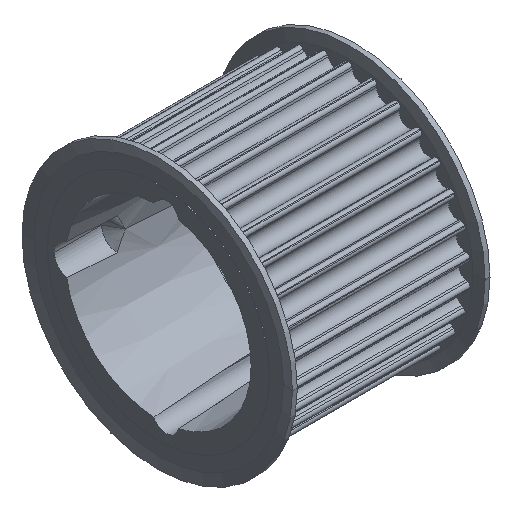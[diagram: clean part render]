
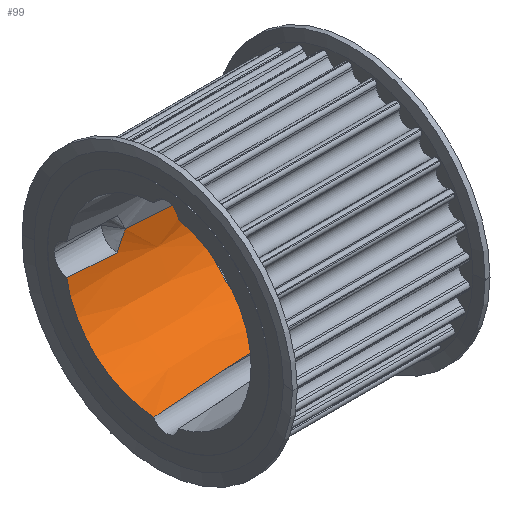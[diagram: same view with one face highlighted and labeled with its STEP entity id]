
A CAD part, isometric view. The second image highlights one B-rep face of the part: STEP entity #99.
In plain terms, the highlighted conical face has half-angle 4 degrees and reference radius 27.171 mm.
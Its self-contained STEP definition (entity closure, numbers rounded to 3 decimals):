
#99 = ADVANCED_FACE( '', ( #468 ), #469, .F. );
#468 = FACE_OUTER_BOUND( '', #1162, .T. );
#469 = CONICAL_SURFACE( '', #1163, 27.171, 0.07 );
#1162 = EDGE_LOOP( '', ( #1991, #1992, #1993, #1994, #1995, #1996, #1997 ) );
#1163 = AXIS2_PLACEMENT_3D( '', #1998, #1999, #2000 );
#1991 = ORIENTED_EDGE( '', *, *, #5385, .T. );
#1992 = ORIENTED_EDGE( '', *, *, #5374, .T. );
#1993 = ORIENTED_EDGE( '', *, *, #5371, .T. );
#1994 = ORIENTED_EDGE( '', *, *, #5411, .T. );
#1995 = ORIENTED_EDGE( '', *, *, #5382, .T. );
#1996 = ORIENTED_EDGE( '', *, *, #5377, .T. );
#1997 = ORIENTED_EDGE( '', *, *, #5406, .F. );
#1998 = CARTESIAN_POINT( '', ( 19., 0., 0. ) );
#1999 = DIRECTION( '', ( -1., 0., 0. ) );
#2000 = DIRECTION( '', ( 0., 1., 0. ) );
#5371 = EDGE_CURVE( '', #6656, #6654, #6657, .T. );
#5374 = EDGE_CURVE( '', #6659, #6656, #6661, .T. );
#5377 = EDGE_CURVE( '', #6662, #6665, #6667, .T. );
#5382 = EDGE_CURVE( '', #6675, #6662, #6676, .T. );
#5385 = EDGE_CURVE( '', #6680, #6659, #6681, .T. );
#5406 = EDGE_CURVE( '', #6680, #6665, #6715, .T. );
#5411 = EDGE_CURVE( '', #6654, #6675, #6721, .T. );
#6654 = VERTEX_POINT( '', #8699 );
#6656 = VERTEX_POINT( '', #8701 );
#6657 = B_SPLINE_CURVE_WITH_KNOTS( '', 3, ( #8702, #8703, #8704, #8705, #8706, #8707 ), .UNSPECIFIED., .F., .F., ( 4, 2, 4 ), ( 0.99, 7.755, 14.52 ), .UNSPECIFIED. );
#6659 = VERTEX_POINT( '', #8709 );
#6661 = B_SPLINE_CURVE_WITH_KNOTS( '', 3, ( #8712, #8713, #8714, #8715, #8716, #8717, #8718, #8719, #8720, #8721, #8722, #8723, #8724, #8725, #8726, #8727, #8728, #8729, #8730, #8731, #8732, #8733, #8734, #8735, #8736, #8737, #8738, #8739, #8740, #8741 ), .UNSPECIFIED., .F., .F., ( 4, 2, 2, 2, 2, 2, 2, 2, 2, 2, 2, 2, 2, 2, 4 ), ( 1.935, 3.423, 5.135, 5.99, 6.418, 6.846, 7.009, 7.171, 7.334, 7.496, 7.924, 8.352, 9.208, 10.92, 12.408 ), .UNSPECIFIED. );
#6662 = VERTEX_POINT( '', #8742 );
#6665 = VERTEX_POINT( '', #8746 );
#6667 = B_SPLINE_CURVE_WITH_KNOTS( '', 3, ( #8748, #8749, #8750, #8751, #8752, #8753, #8754, #8755, #8756, #8757 ), .UNSPECIFIED., .F., .F., ( 4, 2, 2, 2, 4 ), ( 0.995, 11.911, 23.823, 30.71, 36.609 ), .UNSPECIFIED. );
#6675 = VERTEX_POINT( '', #8766 );
#6676 = B_SPLINE_CURVE_WITH_KNOTS( '', 3, ( #8767, #8768, #8769, #8770, #8771, #8772, #8773, #8774, #8775, #8776 ), .UNSPECIFIED., .F., .F., ( 4, 2, 2, 2, 4 ), ( 0.995, 11.911, 23.823, 30.71, 36.609 ), .UNSPECIFIED. );
#6680 = VERTEX_POINT( '', #8789 );
#6681 = LINE( '', #8790, #8791 );
#6715 = CIRCLE( '', #8898, 25.843 );
#6721 = CIRCLE( '', #8913, 28.5 );
#8699 = CARTESIAN_POINT( '', ( 0., 28.098, -4.772 ) );
#8701 = CARTESIAN_POINT( '', ( 14.5, 27.046, -4.9 ) );
#8702 = CARTESIAN_POINT( '', ( 14.5, 27.046, -4.9 ) );
#8703 = CARTESIAN_POINT( '', ( 12.197, 27.21, -4.898 ) );
#8704 = CARTESIAN_POINT( '', ( 9.723, 27.388, -4.887 ) );
#8705 = CARTESIAN_POINT( '', ( 4.776, 27.746, -4.844 ) );
#8706 = CARTESIAN_POINT( '', ( 2.302, 27.928, -4.812 ) );
#8707 = CARTESIAN_POINT( '', ( 0., 28.098, -4.772 ) );
#8709 = CARTESIAN_POINT( '', ( 17.147, 27.301, 0. ) );
#8712 = CARTESIAN_POINT( '', ( 14.5, 27.046, 4.9 ) );
#8713 = CARTESIAN_POINT( '', ( 14.765, 27.11, 4.44 ) );
#8714 = CARTESIAN_POINT( '', ( 15.034, 27.164, 3.971 ) );
#8715 = CARTESIAN_POINT( '', ( 15.613, 27.253, 2.962 ) );
#8716 = CARTESIAN_POINT( '', ( 15.922, 27.285, 2.421 ) );
#8717 = CARTESIAN_POINT( '', ( 16.373, 27.308, 1.626 ) );
#8718 = CARTESIAN_POINT( '', ( 16.521, 27.312, 1.364 ) );
#8719 = CARTESIAN_POINT( '', ( 16.735, 27.313, 0.975 ) );
#8720 = CARTESIAN_POINT( '', ( 16.806, 27.312, 0.847 ) );
#8721 = CARTESIAN_POINT( '', ( 16.941, 27.309, 0.59 ) );
#8722 = CARTESIAN_POINT( '', ( 17.008, 27.307, 0.463 ) );
#8723 = CARTESIAN_POINT( '', ( 17.084, 27.304, 0.282 ) );
#8724 = CARTESIAN_POINT( '', ( 17.106, 27.303, 0.226 ) );
#8725 = CARTESIAN_POINT( '', ( 17.137, 27.301, 0.112 ) );
#8726 = CARTESIAN_POINT( '', ( 17.147, 27.301, 0.054 ) );
#8727 = CARTESIAN_POINT( '', ( 17.147, 27.301, -0.054 ) );
#8728 = CARTESIAN_POINT( '', ( 17.137, 27.301, -0.112 ) );
#8729 = CARTESIAN_POINT( '', ( 17.106, 27.303, -0.226 ) );
#8730 = CARTESIAN_POINT( '', ( 17.084, 27.304, -0.282 ) );
#8731 = CARTESIAN_POINT( '', ( 17.008, 27.307, -0.463 ) );
#8732 = CARTESIAN_POINT( '', ( 16.941, 27.309, -0.59 ) );
#8733 = CARTESIAN_POINT( '', ( 16.806, 27.312, -0.847 ) );
#8734 = CARTESIAN_POINT( '', ( 16.735, 27.313, -0.975 ) );
#8735 = CARTESIAN_POINT( '', ( 16.521, 27.312, -1.364 ) );
#8736 = CARTESIAN_POINT( '', ( 16.373, 27.308, -1.626 ) );
#8737 = CARTESIAN_POINT( '', ( 15.922, 27.285, -2.421 ) );
#8738 = CARTESIAN_POINT( '', ( 15.613, 27.253, -2.962 ) );
#8739 = CARTESIAN_POINT( '', ( 15.034, 27.164, -3.971 ) );
#8740 = CARTESIAN_POINT( '', ( 14.765, 27.11, -4.44 ) );
#8741 = CARTESIAN_POINT( '', ( 14.5, 27.046, -4.9 ) );
#8742 = CARTESIAN_POINT( '', ( 20.989, 1.598, -26.985 ) );
#8746 = CARTESIAN_POINT( '', ( 38., 1.417, -25.804 ) );
#8748 = CARTESIAN_POINT( '', ( 0., 1.308, -28.47 ) );
#8749 = CARTESIAN_POINT( '', ( 3.686, 1.415, -28.207 ) );
#8750 = CARTESIAN_POINT( '', ( 7.678, 1.496, -27.923 ) );
#8751 = CARTESIAN_POINT( '', ( 16.026, 1.595, -27.333 ) );
#8752 = CARTESIAN_POINT( '', ( 20.383, 1.608, -27.027 ) );
#8753 = CARTESIAN_POINT( '', ( 26.634, 1.582, -26.591 ) );
#8754 = CARTESIAN_POINT( '', ( 29.153, 1.561, -26.415 ) );
#8755 = CARTESIAN_POINT( '', ( 33.829, 1.499, -26.091 ) );
#8756 = CARTESIAN_POINT( '', ( 35.987, 1.461, -25.942 ) );
#8757 = CARTESIAN_POINT( '', ( 38., 1.417, -25.804 ) );
#8766 = CARTESIAN_POINT( '', ( 0., 1.308, -28.47 ) );
#8767 = CARTESIAN_POINT( '', ( 0., 1.308, -28.47 ) );
#8768 = CARTESIAN_POINT( '', ( 3.686, 1.415, -28.207 ) );
#8769 = CARTESIAN_POINT( '', ( 7.678, 1.496, -27.923 ) );
#8770 = CARTESIAN_POINT( '', ( 16.026, 1.595, -27.333 ) );
#8771 = CARTESIAN_POINT( '', ( 20.383, 1.608, -27.027 ) );
#8772 = CARTESIAN_POINT( '', ( 26.634, 1.582, -26.591 ) );
#8773 = CARTESIAN_POINT( '', ( 29.153, 1.561, -26.415 ) );
#8774 = CARTESIAN_POINT( '', ( 33.829, 1.499, -26.091 ) );
#8775 = CARTESIAN_POINT( '', ( 35.987, 1.461, -25.942 ) );
#8776 = CARTESIAN_POINT( '', ( 38., 1.417, -25.804 ) );
#8789 = CARTESIAN_POINT( '', ( 38., 25.843, 0. ) );
#8790 = CARTESIAN_POINT( '', ( 19., 27.171, 0. ) );
#8791 = VECTOR( '', #11438, 1. );
#8898 = AXIS2_PLACEMENT_3D( '', #11475, #11476, #11477 );
#8913 = AXIS2_PLACEMENT_3D( '', #11487, #11488, #11489 );
#11438 = DIRECTION( '', ( -0.998, 0.07, 0. ) );
#11475 = CARTESIAN_POINT( '', ( 38., 0., 0. ) );
#11476 = DIRECTION( '', ( -1., 0., 0. ) );
#11477 = DIRECTION( '', ( 0., 1., 0. ) );
#11487 = CARTESIAN_POINT( '', ( 0., 0., 0. ) );
#11488 = DIRECTION( '', ( -1., 0., 0. ) );
#11489 = DIRECTION( '', ( 0., 1., 0. ) );
